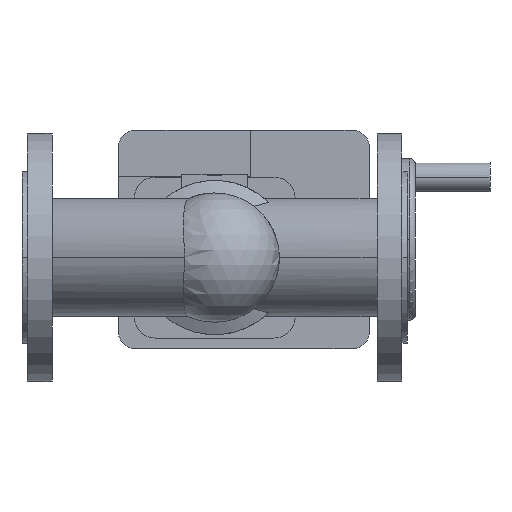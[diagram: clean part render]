
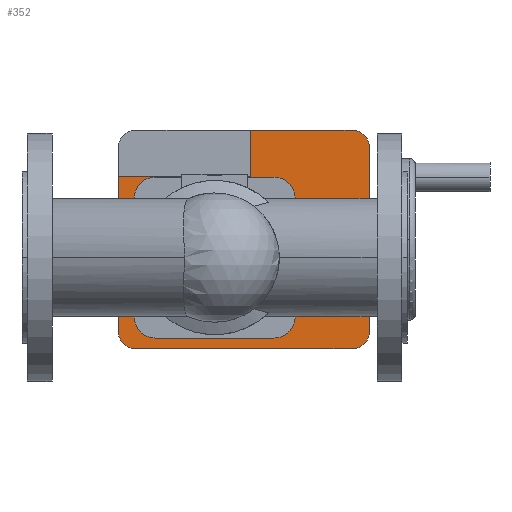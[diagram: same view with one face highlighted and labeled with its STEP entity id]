
A CAD part, front view. The second image highlights one B-rep face of the part: STEP entity #352.
In plain terms, the highlighted planar face has unit normal (0, -1, 0).
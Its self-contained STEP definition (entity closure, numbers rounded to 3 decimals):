
#352 = ADVANCED_FACE( '', ( #876, #877 ), #878, .F. );
#876 = FACE_BOUND( '', #1401, .T. );
#877 = FACE_OUTER_BOUND( '', #1402, .T. );
#878 = PLANE( '', #1403 );
#1401 = EDGE_LOOP( '', ( #3234, #3235, #3236, #3237, #3238, #3239, #3240, #3241 ) );
#1402 = EDGE_LOOP( '', ( #3242, #3243, #3244, #3245, #3246, #3247, #3248, #3249, #3250 ) );
#1403 = AXIS2_PLACEMENT_3D( '', #3251, #3252, #3253 );
#3234 = ORIENTED_EDGE( '', *, *, #3779, .T. );
#3235 = ORIENTED_EDGE( '', *, *, #3783, .T. );
#3236 = ORIENTED_EDGE( '', *, *, #3786, .T. );
#3237 = ORIENTED_EDGE( '', *, *, #3789, .T. );
#3238 = ORIENTED_EDGE( '', *, *, #3792, .T. );
#3239 = ORIENTED_EDGE( '', *, *, #3795, .T. );
#3240 = ORIENTED_EDGE( '', *, *, #3798, .T. );
#3241 = ORIENTED_EDGE( '', *, *, #3800, .T. );
#3242 = ORIENTED_EDGE( '', *, *, #3807, .T. );
#3243 = ORIENTED_EDGE( '', *, *, #3814, .F. );
#3244 = ORIENTED_EDGE( '', *, *, #3822, .F. );
#3245 = ORIENTED_EDGE( '', *, *, #3825, .F. );
#3246 = ORIENTED_EDGE( '', *, *, #3828, .F. );
#3247 = ORIENTED_EDGE( '', *, *, #3831, .F. );
#3248 = ORIENTED_EDGE( '', *, *, #3833, .F. );
#3249 = ORIENTED_EDGE( '', *, *, #3817, .F. );
#3250 = ORIENTED_EDGE( '', *, *, #3810, .T. );
#3251 = CARTESIAN_POINT( '', ( 155., 653.7, 0. ) );
#3252 = DIRECTION( '', ( 0., 1., 0. ) );
#3253 = DIRECTION( '', ( 0., 0., 1. ) );
#3779 = EDGE_CURVE( '', #4711, #4709, #4712, .T. );
#3783 = EDGE_CURVE( '', #4709, #4716, #4718, .T. );
#3786 = EDGE_CURVE( '', #4716, #4721, #4723, .T. );
#3789 = EDGE_CURVE( '', #4721, #4726, #4728, .T. );
#3792 = EDGE_CURVE( '', #4726, #4731, #4733, .T. );
#3795 = EDGE_CURVE( '', #4731, #4736, #4738, .T. );
#3798 = EDGE_CURVE( '', #4736, #4741, #4743, .T. );
#3800 = EDGE_CURVE( '', #4741, #4711, #4745, .T. );
#3807 = EDGE_CURVE( '', #4758, #4756, #4759, .T. );
#3810 = EDGE_CURVE( '', #4761, #4758, #4763, .T. );
#3814 = EDGE_CURVE( '', #4768, #4756, #4770, .T. );
#3817 = EDGE_CURVE( '', #4761, #4774, #4775, .T. );
#3822 = EDGE_CURVE( '', #4781, #4768, #4783, .T. );
#3825 = EDGE_CURVE( '', #4786, #4781, #4788, .T. );
#3828 = EDGE_CURVE( '', #4791, #4786, #4793, .T. );
#3831 = EDGE_CURVE( '', #4796, #4791, #4798, .T. );
#3833 = EDGE_CURVE( '', #4774, #4796, #4800, .T. );
#4709 = VERTEX_POINT( '', #6465 );
#4711 = VERTEX_POINT( '', #6468 );
#4712 = CIRCLE( '', #6469, 9. );
#4716 = VERTEX_POINT( '', #6475 );
#4718 = LINE( '', #6478, #6479 );
#4721 = VERTEX_POINT( '', #6482 );
#4723 = CIRCLE( '', #6485, 9. );
#4726 = VERTEX_POINT( '', #6488 );
#4728 = CIRCLE( '', #6491, 116. );
#4731 = VERTEX_POINT( '', #6494 );
#4733 = CIRCLE( '', #6497, 9. );
#4736 = VERTEX_POINT( '', #6501 );
#4738 = LINE( '', #6504, #6505 );
#4741 = VERTEX_POINT( '', #6508 );
#4743 = CIRCLE( '', #6511, 9. );
#4745 = CIRCLE( '', #6513, 116. );
#4756 = VERTEX_POINT( '', #6528 );
#4758 = VERTEX_POINT( '', #6531 );
#4759 = LINE( '', #6532, #6533 );
#4761 = VERTEX_POINT( '', #6536 );
#4763 = LINE( '', #6539, #6540 );
#4768 = VERTEX_POINT( '', #6547 );
#4770 = LINE( '', #6550, #6551 );
#4774 = VERTEX_POINT( '', #6556 );
#4775 = LINE( '', #6557, #6558 );
#4781 = VERTEX_POINT( '', #6566 );
#4783 = CIRCLE( '', #6569, 14. );
#4786 = VERTEX_POINT( '', #6573 );
#4788 = LINE( '', #6576, #6577 );
#4791 = VERTEX_POINT( '', #6580 );
#4793 = CIRCLE( '', #6583, 14. );
#4796 = VERTEX_POINT( '', #6587 );
#4798 = LINE( '', #6590, #6591 );
#4800 = CIRCLE( '', #6593, 14. );
#6465 = CARTESIAN_POINT( '', ( 110.216, 653.7, 54.2 ) );
#6468 = CARTESIAN_POINT( '', ( 102.058, 653.7, 49.002 ) );
#6469 = AXIS2_PLACEMENT_3D( '', #7603, #7604, #7605 );
#6475 = CARTESIAN_POINT( '', ( 199.784, 653.7, 54.2 ) );
#6478 = CARTESIAN_POINT( '', ( 132.608, 653.7, 54.2 ) );
#6479 = VECTOR( '', #7609, 1. );
#6482 = CARTESIAN_POINT( '', ( 207.942, 653.7, 49.002 ) );
#6485 = AXIS2_PLACEMENT_3D( '', #7614, #7615, #7616 );
#6488 = CARTESIAN_POINT( '', ( 207.942, 653.7, -49.002 ) );
#6491 = AXIS2_PLACEMENT_3D( '', #7621, #7622, #7623 );
#6494 = CARTESIAN_POINT( '', ( 199.784, 653.7, -54.2 ) );
#6497 = AXIS2_PLACEMENT_3D( '', #7628, #7629, #7630 );
#6501 = CARTESIAN_POINT( '', ( 110.216, 653.7, -54.2 ) );
#6504 = CARTESIAN_POINT( '', ( 155., 653.7, -54.2 ) );
#6505 = VECTOR( '', #7633, 1. );
#6508 = CARTESIAN_POINT( '', ( 102.058, 653.7, -49.002 ) );
#6511 = AXIS2_PLACEMENT_3D( '', #7638, #7639, #7640 );
#6513 = AXIS2_PLACEMENT_3D( '', #7644, #7645, #7646 );
#6528 = CARTESIAN_POINT( '', ( 77.5, 653.7, 65. ) );
#6531 = CARTESIAN_POINT( '', ( 184., 653.7, 65. ) );
#6532 = CARTESIAN_POINT( '', ( 115.75, 653.7, 65. ) );
#6533 = VECTOR( '', #7655, 1. );
#6536 = CARTESIAN_POINT( '', ( 184., 653.7, 102.5 ) );
#6539 = CARTESIAN_POINT( '', ( 184., 653.7, 32.5 ) );
#6540 = VECTOR( '', #7658, 1. );
#6547 = CARTESIAN_POINT( '', ( 77.5, 653.7, -59.5 ) );
#6550 = CARTESIAN_POINT( '', ( 77.5, 653.7, -59.5 ) );
#6551 = VECTOR( '', #7662, 1. );
#6556 = CARTESIAN_POINT( '', ( 265.5, 653.7, 102.5 ) );
#6557 = CARTESIAN_POINT( '', ( 91.5, 653.7, 102.5 ) );
#6558 = VECTOR( '', #7667, 1. );
#6566 = CARTESIAN_POINT( '', ( 91.5, 653.7, -73.5 ) );
#6569 = AXIS2_PLACEMENT_3D( '', #7674, #7675, #7676 );
#6573 = CARTESIAN_POINT( '', ( 265.5, 653.7, -73.5 ) );
#6576 = CARTESIAN_POINT( '', ( 265.5, 653.7, -73.5 ) );
#6577 = VECTOR( '', #7679, 1. );
#6580 = CARTESIAN_POINT( '', ( 279.5, 653.7, -59.5 ) );
#6583 = AXIS2_PLACEMENT_3D( '', #7684, #7685, #7686 );
#6587 = CARTESIAN_POINT( '', ( 279.5, 653.7, 88.5 ) );
#6590 = CARTESIAN_POINT( '', ( 279.5, 653.7, 88.5 ) );
#6591 = VECTOR( '', #7689, 1. );
#6593 = AXIS2_PLACEMENT_3D( '', #7693, #7694, #7695 );
#7603 = CARTESIAN_POINT( '', ( 110.216, 653.7, 45.2 ) );
#7604 = DIRECTION( '', ( 0., 1., 0. ) );
#7605 = DIRECTION( '', ( -0.906, 0., 0.422 ) );
#7609 = DIRECTION( '', ( 1., 0., 0. ) );
#7614 = CARTESIAN_POINT( '', ( 199.784, 653.7, 45.2 ) );
#7615 = DIRECTION( '', ( 0., 1., 0. ) );
#7616 = DIRECTION( '', ( 0., 0., 1. ) );
#7621 = CARTESIAN_POINT( '', ( 102.8, 653.7, 0. ) );
#7622 = DIRECTION( '', ( 0., 1., 0. ) );
#7623 = DIRECTION( '', ( 0.906, 0., 0.422 ) );
#7628 = CARTESIAN_POINT( '', ( 199.784, 653.7, -45.2 ) );
#7629 = DIRECTION( '', ( 0., 1., 0. ) );
#7630 = DIRECTION( '', ( 0.906, 0., -0.422 ) );
#7633 = DIRECTION( '', ( -1., 0., 0. ) );
#7638 = CARTESIAN_POINT( '', ( 110.216, 653.7, -45.2 ) );
#7639 = DIRECTION( '', ( 0., 1., 0. ) );
#7640 = DIRECTION( '', ( 0., 0., -1. ) );
#7644 = CARTESIAN_POINT( '', ( 207.2, 653.7, 0. ) );
#7645 = DIRECTION( '', ( 0., 1., 0. ) );
#7646 = DIRECTION( '', ( -0.906, 0., -0.422 ) );
#7655 = DIRECTION( '', ( -1., 0., 0. ) );
#7658 = DIRECTION( '', ( 0., 0., -1. ) );
#7662 = DIRECTION( '', ( 0., 0., 1. ) );
#7667 = DIRECTION( '', ( 1., 0., 0. ) );
#7674 = CARTESIAN_POINT( '', ( 91.5, 653.7, -59.5 ) );
#7675 = DIRECTION( '', ( 0., 1., 0. ) );
#7676 = DIRECTION( '', ( 0., 0., -1. ) );
#7679 = DIRECTION( '', ( -1., 0., 0. ) );
#7684 = CARTESIAN_POINT( '', ( 265.5, 653.7, -59.5 ) );
#7685 = DIRECTION( '', ( 0., 1., 0. ) );
#7686 = DIRECTION( '', ( 1., 0., 0. ) );
#7689 = DIRECTION( '', ( 0., 0., -1. ) );
#7693 = CARTESIAN_POINT( '', ( 265.5, 653.7, 88.5 ) );
#7694 = DIRECTION( '', ( 0., 1., 0. ) );
#7695 = DIRECTION( '', ( 0., 0., 1. ) );
